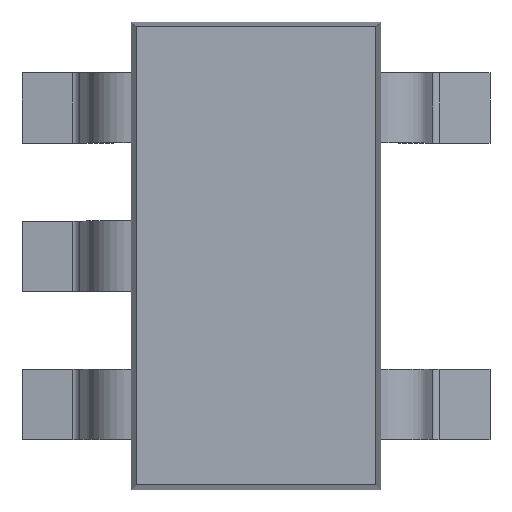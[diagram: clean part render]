
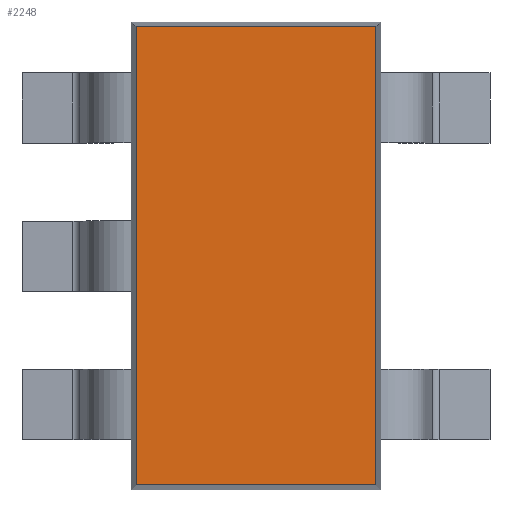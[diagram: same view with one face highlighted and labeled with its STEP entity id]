
A CAD part, top view. The second image highlights one B-rep face of the part: STEP entity #2248.
In plain terms, the highlighted planar face has unit normal (0, 0, 1).
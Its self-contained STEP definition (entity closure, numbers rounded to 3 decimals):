
#2157 = VERTEX_POINT('',#2158);
#2158 = CARTESIAN_POINT('',(-0.769,2.644,1.1));
#2166 = VERTEX_POINT('',#2167);
#2167 = CARTESIAN_POINT('',(-0.769,-0.294,1.1));
#2173 = EDGE_CURVE('',#2157,#2166,#2174,.T.);
#2174 = LINE('',#2175,#2176);
#2175 = CARTESIAN_POINT('',(-0.769,2.675,1.1));
#2176 = VECTOR('',#2177,1.);
#2177 = DIRECTION('',(0.,-1.,0.));
#2207 = VERTEX_POINT('',#2208);
#2208 = CARTESIAN_POINT('',(0.769,-0.294,1.1));
#2214 = EDGE_CURVE('',#2166,#2207,#2215,.T.);
#2215 = LINE('',#2216,#2217);
#2216 = CARTESIAN_POINT('',(-0.8,-0.294,1.1));
#2217 = VECTOR('',#2218,1.);
#2218 = DIRECTION('',(1.,0.,0.));
#2229 = VERTEX_POINT('',#2230);
#2230 = CARTESIAN_POINT('',(0.769,2.644,1.1));
#2238 = EDGE_CURVE('',#2229,#2157,#2239,.T.);
#2239 = LINE('',#2240,#2241);
#2240 = CARTESIAN_POINT('',(0.8,2.644,1.1));
#2241 = VECTOR('',#2242,1.);
#2242 = DIRECTION('',(-1.,0.,0.));
#2248 = ADVANCED_FACE('',(#2249),#2260,.T.);
#2249 = FACE_BOUND('',#2250,.T.);
#2250 = EDGE_LOOP('',(#2251,#2252,#2258,#2259));
#2251 = ORIENTED_EDGE('',*,*,#2214,.T.);
#2252 = ORIENTED_EDGE('',*,*,#2253,.T.);
#2253 = EDGE_CURVE('',#2207,#2229,#2254,.T.);
#2254 = LINE('',#2255,#2256);
#2255 = CARTESIAN_POINT('',(0.769,-0.325,1.1));
#2256 = VECTOR('',#2257,1.);
#2257 = DIRECTION('',(0.,1.,0.));
#2258 = ORIENTED_EDGE('',*,*,#2238,.T.);
#2259 = ORIENTED_EDGE('',*,*,#2173,.T.);
#2260 = PLANE('',#2261);
#2261 = AXIS2_PLACEMENT_3D('',#2262,#2263,#2264);
#2262 = CARTESIAN_POINT('',(0.,1.175,1.1));
#2263 = DIRECTION('',(0.,0.,1.));
#2264 = DIRECTION('',(1.,0.,0.));
